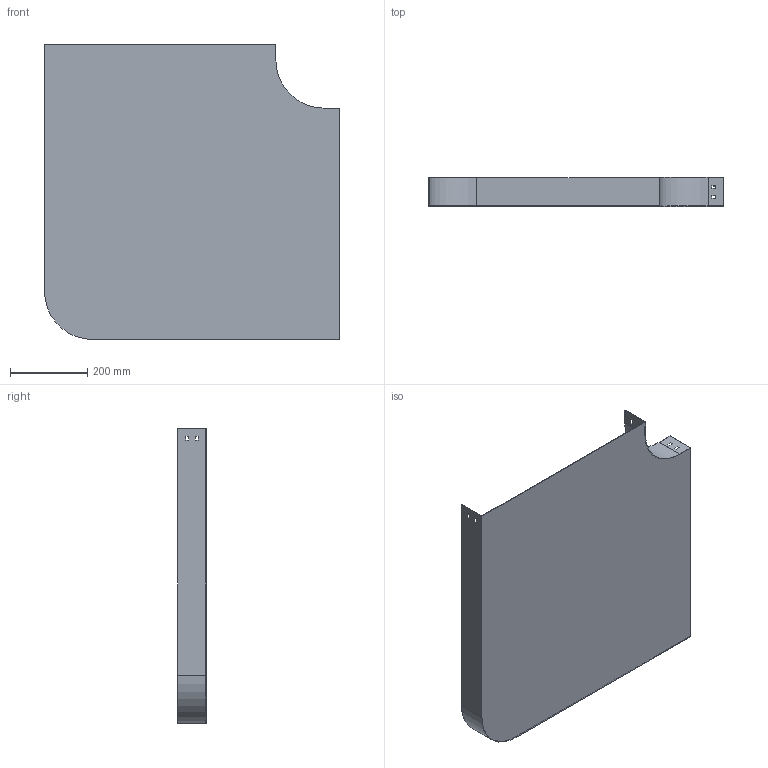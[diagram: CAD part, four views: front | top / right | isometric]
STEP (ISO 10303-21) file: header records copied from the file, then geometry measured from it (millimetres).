
FILE_DESCRIPTION (( 'STEP AP214' ), '1' );
FILE_NAME ('P9_607.step', '2025-07-16T09:21:28', ( '' ), ( '' ), 'SwSTEP 2.0', 'SolidWorks 2023', '' );
FILE_SCHEMA (( 'AUTOMOTIVE_DESIGN' ));
Length unit declared in the file: millimetre
Products named in the file (1): P9_607
Bounding box: 765 x 75 x 765 mm (x, y, z)
Volume: 1029395.1 mm3; surface area: 1377804.8 mm2
Topology: 1 solids, 1 shells, 50 faces, 144 edges, 96 vertices
Faces by surface type: plane 46, cylinder 4
Entity records: 1671 total; most frequent: CARTESIAN_POINT 291, ORIENTED_EDGE 288, DIRECTION 254, EDGE_CURVE 144, LINE 136, VECTOR 136, VERTEX_POINT 96, EDGE_LOOP 66
